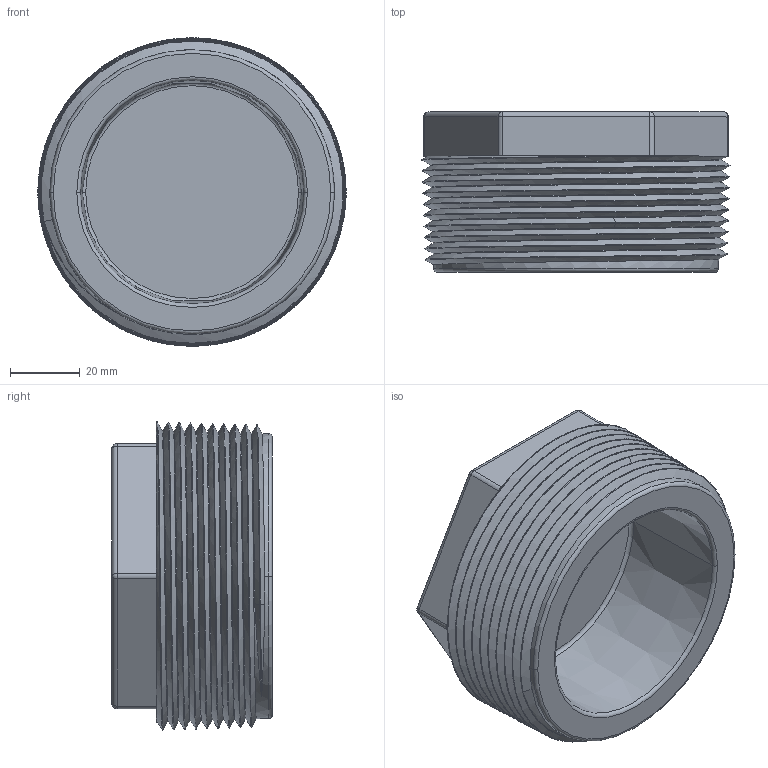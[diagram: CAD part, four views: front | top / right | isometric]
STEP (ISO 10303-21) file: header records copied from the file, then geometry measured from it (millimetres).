
FILE_DESCRIPTION(/* description */ ('Alibre Inc.'),/* implementation_level */ '2;1');
FILE_NAME(/* name */ 'export0',/* time_stamp */ '2019-10-17T10:40:51-04:00',/* author */ (''),/* organization */ (''),/* preprocessor_version */ 'ST-DEVELOPER v17',/* originating_system */ 'Alibre',/* authorisation */ '');
FILE_SCHEMA (('CONFIG_CONTROL_DESIGN'));
Length unit declared in the file: inch
Products named in the file (1): 200-62260-1000C
Bounding box: 88.16 x 45.9 x 88.21 mm (x, y, z)
Volume: 144369.6 mm3; surface area: 36234 mm2
Topology: 1 solids, 1 shells, 76 faces, 184 edges, 105 vertices
Faces by surface type: cone 21, plane 19, cylinder 12, bspline 12, sphere 6, torus 6
Entity records: 11373 total; most frequent: CARTESIAN_POINT 9897, ORIENTED_EDGE 356, DIRECTION 200, EDGE_CURVE 178, VERTEX_POINT 105, EDGE_LOOP 77, FACE_BOUND 77, AXIS2_PLACEMENT_3D 77
